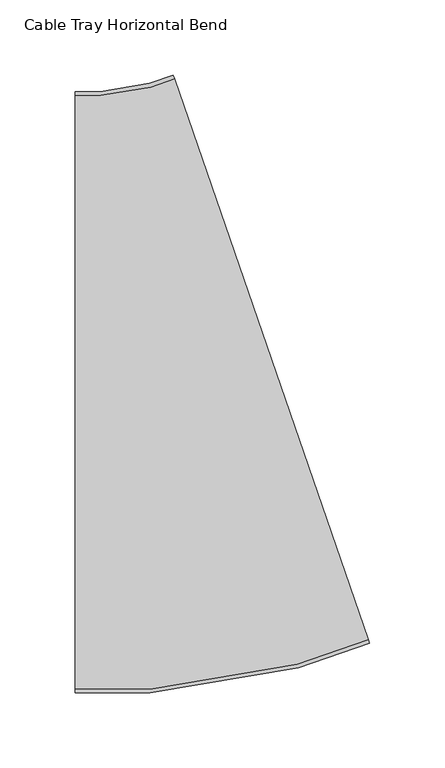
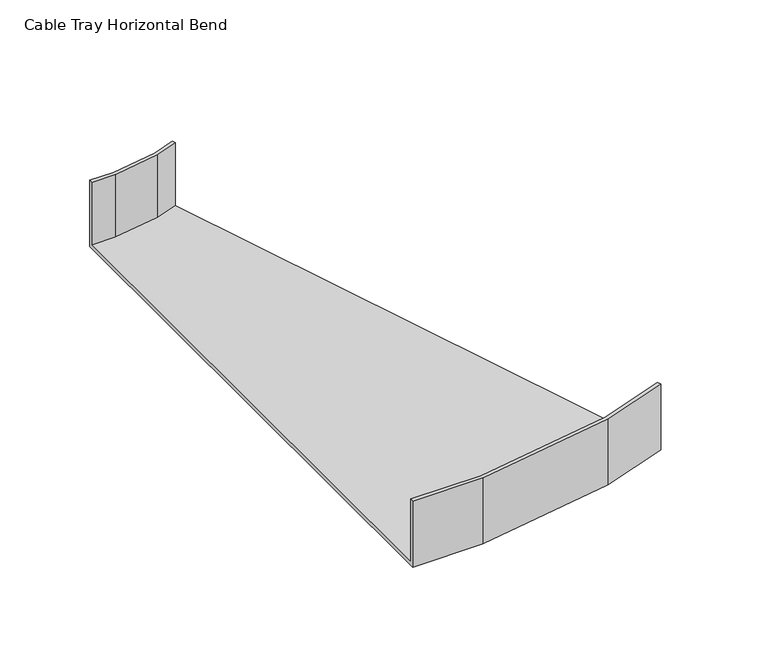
"""IFC4 building model written with IfcOpenShell, lengths in millimetres: cable carrier fitting geometry, Cable Tray Horizontal Bend : ELEC_SUB_CT_N2402."""

import ifcopenshell
import ifcopenshell.guid

model = None  # the IFC model being written
_history = None  # IfcOwnerHistory: only IFC2X3 demands one
_inside = {}  # id of a spatial element -> (the spatial element, [elements in it])
_under = {}  # id of a project, library or spatial element -> (it, [spatial elements below it])
_declared = {}  # id of a project -> (the project, [libraries it declares])
_typed = {}  # id of a type object -> (the type object, [elements of that type])
_made_of = {}  # id of a material, layer set ... -> (it, [elements and type objects made of it])


def new_model(schema):
    """Start an empty IFC model of exactly this schema.

    Asked for "IFC4X3", IfcOpenShell would pick the latest addendum, in which some entities
    have other attributes; the version numbers below select the first issue.
    IFC2X3 requires an IfcOwnerHistory on every rooted entity: one is made here for all.
    """
    global model, _history
    if schema == "IFC4X3":
        model = ifcopenshell.file(schema_version=(4, 3, 0, 0))
    else:
        model = ifcopenshell.file(schema=schema)
    _inside.clear()
    _under.clear()
    _declared.clear()
    _typed.clear()
    _made_of.clear()
    _history = None
    if model.schema == "IFC2X3":
        org = make("IfcOrganization", Name="unknown")
        user = make(
            "IfcPersonAndOrganization",
            ThePerson=make("IfcPerson", FamilyName="unknown"),
            TheOrganization=org,
        )
        app = make(
            "IfcApplication",
            ApplicationDeveloper=org,
            Version="unknown",
            ApplicationFullName="unknown",
            ApplicationIdentifier="unknown",
        )
        _history = make(
            "IfcOwnerHistory",
            OwningUser=user,
            OwningApplication=app,
            ChangeAction="ADDED",
            CreationDate=0,
        )
    return model


def make(cls, **values):
    """One entity of the class cls with the attributes given. An attribute that is None is left unset."""
    return model.create_entity(
        cls, **{name: value for name, value in values.items() if value is not None}
    )


def rooted(cls, **values):
    """An entity with a GlobalId (a new one), such as an element, a storey or a relation."""
    return make(cls, GlobalId=ifcopenshell.guid.new(), OwnerHistory=_history, **values)


def si_unit(unit_type, name, prefix=None):
    """IfcSIUnit, for example si_unit("LENGTHUNIT", "METRE", prefix="MILLI")."""
    return make("IfcSIUnit", UnitType=unit_type, Prefix=prefix, Name=name)


def assignment(units):
    """IfcUnitAssignment: the units of a project."""
    return None if units is None else make("IfcUnitAssignment", Units=units)


def point(xyz):
    """IfcCartesianPoint."""
    return None if xyz is None else make("IfcCartesianPoint", Coordinates=xyz)


def direction(xyz):
    """IfcDirection."""
    return None if xyz is None else make("IfcDirection", DirectionRatios=xyz)


def frame(location, z_axis=None, x_axis=None):
    """IfcAxis2Placement3D, a coordinate frame: its origin and axes. An axis left out is left unset."""
    return make(
        "IfcAxis2Placement3D",
        Location=point(location),
        Axis=direction(z_axis),
        RefDirection=direction(x_axis),
    )


def origin():
    """The frame at (0, 0, 0) with its axes left unset."""
    return frame((0.0, 0.0, 0.0))


def place(relative_to, where):
    """IfcLocalPlacement: puts the frame where relative to a parent placement (None: the world)."""
    return make(
        "IfcLocalPlacement", PlacementRelTo=relative_to, RelativePlacement=where
    )


def context(
    kind, dimensions, precision=None, world=None, true_north=None, identifier=None
):
    """IfcGeometricRepresentationContext, for example the 3D "Model" context."""
    return make(
        "IfcGeometricRepresentationContext",
        ContextIdentifier=identifier,
        ContextType=kind,
        CoordinateSpaceDimension=dimensions,
        Precision=precision,
        WorldCoordinateSystem=world,
        TrueNorth=true_north,
    )


def project(units=None, contexts=None):
    """IfcProject with its units and contexts."""
    return rooted(
        "IfcProject",
        Name="project",
        RepresentationContexts=contexts,
        UnitsInContext=assignment(units),
    )


def spatial(cls, under=None, at=None, **own):
    """A site, building, storey or space (cls), placed at a placement, below another one or the project."""
    s = rooted(cls, ObjectPlacement=at, **own)
    if under is not None:
        _under.setdefault(under.id(), (under, []))[1].append(s)
    return s


def faces_of(points, faces, orient=None, outer=None):
    """IfcFace entities. A face is a list of loops; a loop is a list of indices into points, from 0.

    orient and outer hold one flag for each loop. By default every Orientation is true, the
    first loop of a face is its IfcFaceOuterBound and the others are IfcFaceBound.
    """
    made = []
    for i, loops in enumerate(faces):
        bounds = []
        for j, loop in enumerate(loops):
            is_outer = j == 0 if outer is None else outer[i][j]
            bounds.append(
                make(
                    "IfcFaceOuterBound" if is_outer else "IfcFaceBound",
                    Bound=make("IfcPolyLoop", Polygon=[points[k] for k in loop]),
                    Orientation=True if orient is None else orient[i][j],
                )
            )
        made.append(make("IfcFace", Bounds=bounds))
    return made


def faceted_brep(points, faces, orient=None, outer=None, voids=None):
    """IfcFacetedBrep: a solid bounded by flat faces; with voids (closed shells), ...WithVoids."""
    shared = [point(p) for p in points]
    hull = make("IfcClosedShell", CfsFaces=faces_of(shared, faces, orient, outer))
    if voids is None:
        return make("IfcFacetedBrep", Outer=hull)
    return make(
        "IfcFacetedBrepWithVoids",
        Outer=hull,
        Voids=[
            make(cls, CfsFaces=faces_of(shared, fs, o, b)) for cls, fs, o, b in voids
        ],
    )


def shape(context_of_items, identifier, shape_type, items):
    """IfcShapeRepresentation: the items that make up one representation, for example the "Body"."""
    return make(
        "IfcShapeRepresentation",
        ContextOfItems=context_of_items,
        RepresentationIdentifier=identifier,
        RepresentationType=shape_type,
        Items=items,
    )


def source(mapping_origin, context_of_items, identifier, shape_type, items):
    """IfcRepresentationMap: a shape defined once, which mapped items show again and again."""
    return make(
        "IfcRepresentationMap",
        MappingOrigin=mapping_origin,
        MappedRepresentation=shape(context_of_items, identifier, shape_type, items),
    )


def transform(
    local_origin,
    x_axis=None,
    y_axis=None,
    z_axis=None,
    scale=None,
    scale2=None,
    scale3=None,
    uniform=True,
):
    """IfcCartesianTransformationOperator3D, or its non-uniform kind. x_axis, y_axis, z_axis: its Axis1, 2, 3."""
    if uniform:
        return make(
            "IfcCartesianTransformationOperator3D",
            Axis1=direction(x_axis),
            Axis2=direction(y_axis),
            LocalOrigin=point(local_origin),
            Scale=scale,
            Axis3=direction(z_axis),
        )
    return make(
        "IfcCartesianTransformationOperator3DnonUniform",
        Axis1=direction(x_axis),
        Axis2=direction(y_axis),
        LocalOrigin=point(local_origin),
        Scale=scale,
        Axis3=direction(z_axis),
        Scale2=scale2,
        Scale3=scale3,
    )


def mapped(mapping_source, mapping_target):
    """IfcMappedItem: shows the shape of a source again, moved by a transform."""
    return make(
        "IfcMappedItem", MappingSource=mapping_source, MappingTarget=mapping_target
    )


def made_of(thing, what):
    """Note that an element or type object is made of a material, layer set ...; save() writes the relation."""
    if what is not None:
        _made_of.setdefault(what.id(), (what, []))[1].append(thing)
    return thing


def element(
    cls,
    number,
    at=None,
    inside=None,
    cuts=None,
    type_object=None,
    material=None,
    context=None,
    identifier="Body",
    shape_type=None,
    held_by="IfcProductDefinitionShape",
    body=None,
    shapes=None,
    **own,
):
    """One element of the class cls, such as IfcWall. Its Tag is "e" and its number.

    at: its placement. inside: the storey or other place that contains it. cuts: it is an
    opening in that element (IfcRelVoidsElement). A single representation is given by context,
    identifier, shape_type and body (its items); several are given by shapes. held_by: the class
    of the entity that holds the representations. save() writes the other relations.
    """
    e = rooted(cls, Tag="e%d" % number, ObjectPlacement=at, **own)
    if body is not None:
        shapes = [shape(context, identifier, shape_type, body)]
    if shapes is not None:
        e.Representation = make(held_by, Representations=shapes)
    if inside is not None:
        _inside.setdefault(inside.id(), (inside, []))[1].append(e)
    if cuts is not None:
        rooted(
            "IfcRelVoidsElement", RelatingBuildingElement=cuts, RelatedOpeningElement=e
        )
    if type_object is not None:
        _typed.setdefault(type_object.id(), (type_object, []))[1].append(e)
    return made_of(e, material)


def aggregate(whole, parts):
    """IfcRelAggregates: a whole, such as a stair, and the parts it consists of."""
    return rooted("IfcRelAggregates", RelatingObject=whole, RelatedObjects=parts)


def save(model, path):
    """Write the relations noted so far, then the file.

    IfcRelAggregates (storeys below a building ...), IfcRelContainedInSpatialStructure (elements
    in a storey), IfcRelDefinesByType, IfcRelAssociatesMaterial and IfcRelDeclares: one each for
    every whole, place, type object, material and project.
    """
    for whole, parts in _under.values():
        aggregate(whole, parts)
    for where, things in _inside.values():
        rooted(
            "IfcRelContainedInSpatialStructure",
            RelatedElements=things,
            RelatingStructure=where,
        )
    for kind, things in _typed.values():
        rooted("IfcRelDefinesByType", RelatedObjects=things, RelatingType=kind)
    for what, things in _made_of.values():
        rooted("IfcRelAssociatesMaterial", RelatedObjects=things, RelatingMaterial=what)
    for by, libraries in _declared.values():
        rooted("IfcRelDeclares", RelatingContext=by, RelatedDefinitions=libraries)
    model.write(path)


def cable_tray_horizontal_bend_4702312a(model_context):
    return source(origin(), model_context, "Body", "Brep", [
        faceted_brep([(-67.2145039, -200.0, -25.0), (-67.2145039, -200.0, 25.0), (-67.2145039, -197.46, 25.0), (-67.2145039, -197.46, -22.46), (-67.2145039, 197.46, -22.46), (-67.2145039, 197.46, 25.0), (-67.2145039, 200.0, 25.0), (-67.2145039, 200.0, -25.0), (128.8917163, -167.0470443, -25.0), (-1.8457638, 210.9843186, -25.0), (-1.8457638, 210.9843186, 25.0), (-1.0155808, 208.5838194, 25.0), (-1.0155808, 208.5838194, -22.46), (128.0615333, -164.6465451, -22.46), (128.0615333, -164.6465451, 25.0), (128.8917163, -167.0470443, 25.0), (-17.1545417, -200.0, -25.0), (-17.1545417, -200.0, 25.0), (81.581127, -183.4088275, 25.0), (80.9512255, -180.9390635, 25.0), (-17.3664622, -197.46, 25.0), (-17.3664622, -197.46, -22.46), (80.9512255, -180.9390635, -22.46), (-16.9860588, 203.0606268, -22.46), (-50.3159293, 197.46, -22.46), (-50.3159293, 197.46, 25.0), (-16.9860588, 203.0606268, 25.0), (-17.6159603, 205.5303908, 25.0), (-50.5278498, 200.0, 25.0), (-50.5278498, 200.0, -25.0), (-17.6159603, 205.5303908, -25.0), (81.581127, -183.4088275, -25.0)], [[[0, 1, 2, 3, 4, 5, 6, 7]], [[8, 9, 10, 11, 12, 13, 14, 15]], [[1, 0, 16, 17]], [[2, 1, 17, 18, 15, 14, 19, 20]], [[3, 2, 20, 21]], [[4, 3, 21, 22, 13, 12, 23, 24]], [[5, 4, 24, 25]], [[6, 5, 25, 26, 11, 10, 27, 28]], [[7, 6, 28, 29]], [[0, 7, 29, 30, 9, 8, 31, 16]], [[17, 16, 31, 18]], [[21, 20, 19, 22]], [[25, 24, 23, 26]], [[29, 28, 27, 30]], [[18, 31, 8, 15]], [[22, 19, 14, 13]], [[26, 23, 12, 11]], [[30, 27, 10, 9]]]),
    ])


if __name__ == "__main__":
    model = new_model("IFC4")
    model_context = context("Model", 3, world=origin())
    ifc_project = project(units=[si_unit("LENGTHUNIT", "METRE", prefix="MILLI")], contexts=[model_context])
    site = spatial("IfcSite", under=ifc_project)
    building = spatial("IfcBuilding", under=site)
    placement = place(None, origin())
    cable_tray_horizontal_bend_shape = cable_tray_horizontal_bend_4702312a(model_context)
    element("IfcCableCarrierFitting", 1, ObjectType="Cable Tray Horizontal Bend : ELEC_SUB_CT_N2402", at=placement, inside=building, context=model_context, shape_type="MappedRepresentation", body=[
        mapped(cable_tray_horizontal_bend_shape, transform((0.0, 0.0, 0.0), x_axis=(1.0, 0.0, 0.0), y_axis=(0.0, 1.0, 0.0), z_axis=(0.0, 0.0, 1.0))),
    ])
    save(model, "model.ifc")
